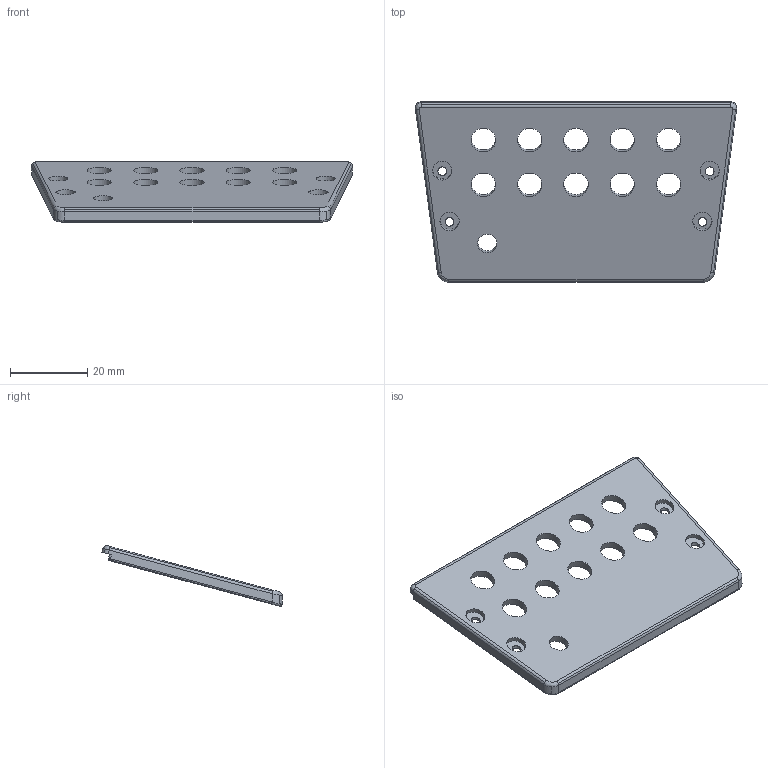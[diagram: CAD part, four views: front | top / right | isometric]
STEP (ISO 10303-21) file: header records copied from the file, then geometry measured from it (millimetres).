
FILE_DESCRIPTION(('STEP AP214'),'1');
FILE_NAME('04-Border Panel Front Cover v19.stp','2020-04-02T22:06:20',(' '),(' '),'Spatial InterOp 3D',' ',' ');
FILE_SCHEMA(('AUTOMOTIVE_DESIGN { 1 0 10303 214 1 1 1 1 }'));
Length unit declared in the file: metre
Products named in the file (1): Corps
Bounding box: 83.38 x 46.73 x 15.7 mm (x, y, z)
Volume: 6859.1 mm3; surface area: 8152.2 mm2
Topology: 1 solids, 1 shells, 98 faces, 264 edges, 172 vertices
Faces by surface type: cylinder 72, plane 16, bspline 6, sphere 4
Entity records: 4679 total; most frequent: CARTESIAN_POINT 1993, DIRECTION 612, ORIENTED_EDGE 528, EDGE_CURVE 264, AXIS2_PLACEMENT_3D 255, VERTEX_POINT 172, EDGE_LOOP 132, LINE 102
